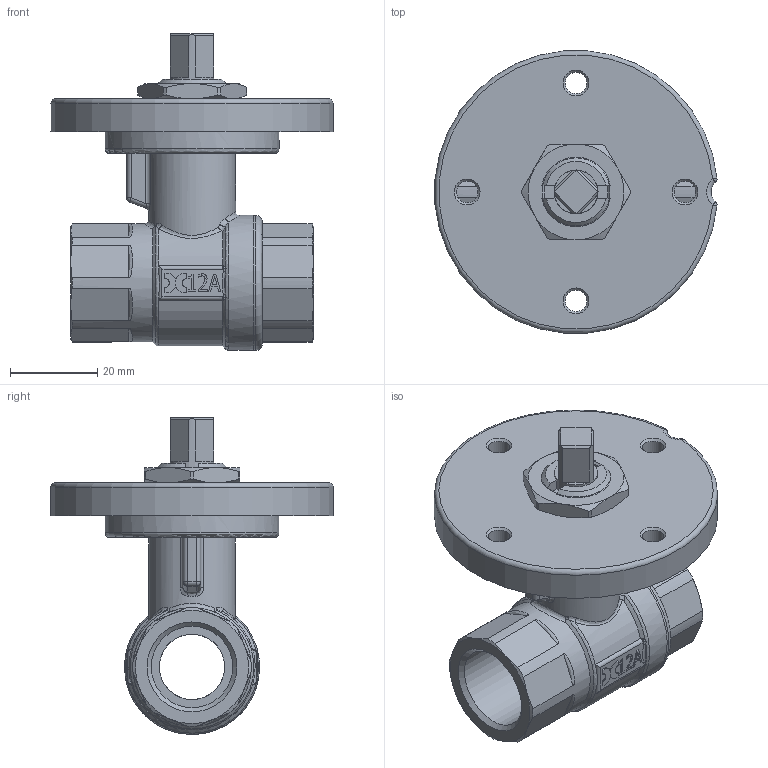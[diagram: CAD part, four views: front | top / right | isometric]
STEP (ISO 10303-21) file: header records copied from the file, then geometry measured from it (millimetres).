
FILE_DESCRIPTION((''),'2;1');
FILE_NAME('C:\Documents and Settings\ut4\Desktop\TICOM ULTIMATE\Art.105 PM SM 012.stp','2012-07-16T15:02:57',('ut4'),(''),'Autodesk Inventor 2013','Autodesk Inventor 2013','');
FILE_SCHEMA(('AUTOMOTIVE_DESIGN { 1 0 10303 214 1 1 1 1 }'));
Length unit declared in the file: millimetre
Products named in the file (12): Valv. mot. 012 art.105 PM SM; Corpo femmina 012 mot; sfera 012; Ghiera ferma asta mot; Dado blocca piastra SM1; Anello antigrip. perno mot. Ø13; Boccola antigrip. perno mot. Ø13; Perno mot. 13 q8; O-ring 9.75x1; Sede 012; Manicotto femmina 012; Dischetto portamotore SM Ø16 lav
Assembly tree (13 placements, depth 2):
  Valv. mot. 012 art.105 PM SM
    Corpo femmina 012 mot
    sfera 012
    Ghiera ferma asta mot
    Dado blocca piastra SM1
    Anello antigrip. perno mot. Ø13
    Boccola antigrip. perno mot. Ø13
    Perno mot. 13 q8
    O-ring 9.75x1  x2
    Sede 012  x2
    Manicotto femmina 012
    Dischetto portamotore SM Ø16 lav
Bounding box: 64.73 x 64.78 x 72.75 mm (x, y, z)
Volume: 53444.7 mm3; surface area: 35011.2 mm2
Topology: 13 solids, 13 shells, 569 faces, 1408 edges, 875 vertices
Faces by surface type: plane 226, cylinder 139, bspline 77, cone 64, torus 42, sphere 21
Full cylindrical faces by diameter (mm): 4.917 x4, 10 x3, 10.1 x3, 10.4 x2, 11 x1, 11.1 x1, 12.9 x5, 13 x1, 14.5 x2, 15 x5, 15.5 x1, 16 x2, 17 x1, 18.65 x2, 20 x1, 22 x4, 25.5 x1, 27 x1, 27.2 x1, 27.3 x1, 31 x2, 40 x1
Entity records: 18388 total; most frequent: CARTESIAN_POINT 5470, ORIENTED_EDGE 2560, DIRECTION 2486, EDGE_CURVE 1280, AXIS2_PLACEMENT_3D 957, VERTEX_POINT 846, EDGE_LOOP 694, VECTOR 572
